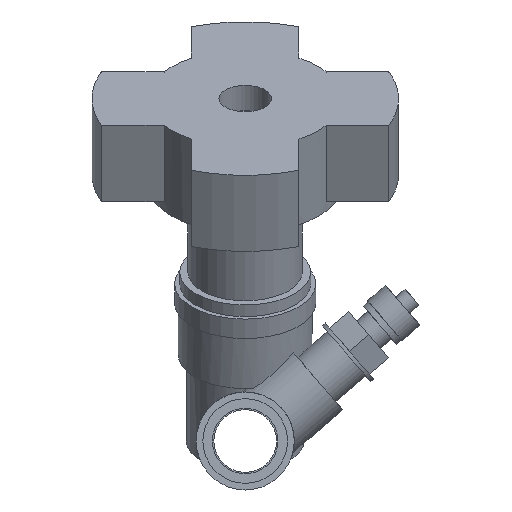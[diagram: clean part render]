
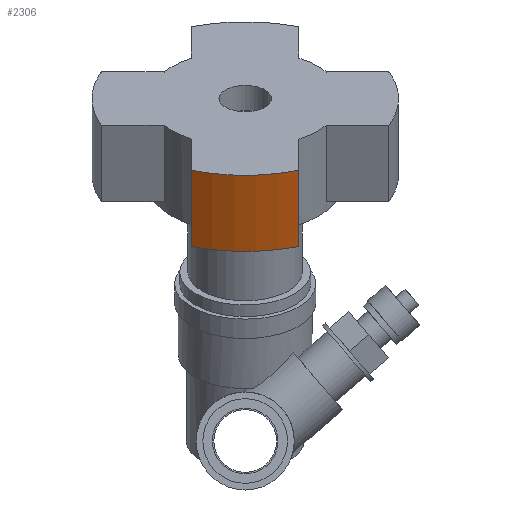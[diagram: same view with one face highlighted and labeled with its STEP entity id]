
A CAD part, left-side view. The second image highlights one B-rep face of the part: STEP entity #2306.
In plain terms, the highlighted cylindrical face has radius 1.37 mm (diameter 2.74 mm), a partial arc.
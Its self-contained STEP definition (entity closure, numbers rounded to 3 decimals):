
#1510 = PLANE('',#1511);
#1511 = AXIS2_PLACEMENT_3D('',#1512,#1513,#1514);
#1512 = CARTESIAN_POINT('',(0.323,0.,2.377));
#1513 = DIRECTION('',(-0.5,0.,0.866));
#1514 = DIRECTION('',(0.866,0.,0.5));
#1530 = VERTEX_POINT('',#1531);
#1531 = CARTESIAN_POINT('',(-0.789,-0.48,1.736));
#1545 = PLANE('',#1546);
#1546 = AXIS2_PLACEMENT_3D('',#1547,#1548,#1549);
#1547 = CARTESIAN_POINT('',(0.323,-0.48,2.377));
#1548 = DIRECTION('',(0.,-1.,0.));
#1549 = DIRECTION('',(0.866,0.,0.5));
#1557 = EDGE_CURVE('',#1530,#1558,#1560,.T.);
#1558 = VERTEX_POINT('',#1559);
#1559 = CARTESIAN_POINT('',(-0.789,0.48,1.736));
#1560 = SURFACE_CURVE('',#1561,(#1566,#1577),.PCURVE_S1.);
#1561 = CIRCLE('',#1562,1.37);
#1562 = AXIS2_PLACEMENT_3D('',#1563,#1564,#1565);
#1563 = CARTESIAN_POINT('',(0.323,0.,2.377));
#1564 = DIRECTION('',(0.5,0.,-0.866));
#1565 = DIRECTION('',(0.866,0.,0.5));
#1566 = PCURVE('',#1510,#1567);
#1567 = DEFINITIONAL_REPRESENTATION('',(#1568),#1576);
#1568 = ( BOUNDED_CURVE() B_SPLINE_CURVE(2,(#1569,#1570,#1571,#1572,
#1573,#1574,#1575),.UNSPECIFIED.,.T.,.F.) B_SPLINE_CURVE_WITH_KNOTS((1,2
    ,2,2,2,1),(-2.094,0.,2.094,4.189,
6.283,8.378),.UNSPECIFIED.) CURVE() 
GEOMETRIC_REPRESENTATION_ITEM() RATIONAL_B_SPLINE_CURVE((1.,0.5,1.,0.5,
1.,0.5,1.)) REPRESENTATION_ITEM('') );
#1569 = CARTESIAN_POINT('',(1.37,0.));
#1570 = CARTESIAN_POINT('',(1.37,-2.373));
#1571 = CARTESIAN_POINT('',(-0.685,-1.186));
#1572 = CARTESIAN_POINT('',(-2.74,0.));
#1573 = CARTESIAN_POINT('',(-0.685,1.186));
#1574 = CARTESIAN_POINT('',(1.37,2.373));
#1575 = CARTESIAN_POINT('',(1.37,0.));
#1576 = ( GEOMETRIC_REPRESENTATION_CONTEXT(2) 
PARAMETRIC_REPRESENTATION_CONTEXT() REPRESENTATION_CONTEXT('2D SPACE',''
  ) );
#1577 = PCURVE('',#1578,#1583);
#1578 = CYLINDRICAL_SURFACE('',#1579,1.37);
#1579 = AXIS2_PLACEMENT_3D('',#1580,#1581,#1582);
#1580 = CARTESIAN_POINT('',(0.323,0.,2.377));
#1581 = DIRECTION('',(-0.5,0.,0.866));
#1582 = DIRECTION('',(0.866,0.,0.5));
#1583 = DEFINITIONAL_REPRESENTATION('',(#1584),#1588);
#1584 = LINE('',#1585,#1586);
#1585 = CARTESIAN_POINT('',(6.283,0.));
#1586 = VECTOR('',#1587,1.);
#1587 = DIRECTION('',(-1.,0.));
#1588 = ( GEOMETRIC_REPRESENTATION_CONTEXT(2) 
PARAMETRIC_REPRESENTATION_CONTEXT() REPRESENTATION_CONTEXT('2D SPACE',''
  ) );
#1604 = PLANE('',#1605);
#1605 = AXIS2_PLACEMENT_3D('',#1606,#1607,#1608);
#1606 = CARTESIAN_POINT('',(0.323,0.48,2.377));
#1607 = DIRECTION('',(0.,1.,0.));
#1608 = DIRECTION('',(-0.866,0.,-0.5));
#1807 = PLANE('',#1808);
#1808 = AXIS2_PLACEMENT_3D('',#1809,#1810,#1811);
#1809 = CARTESIAN_POINT('',(-0.07,0.,3.057)
  );
#1810 = DIRECTION('',(-0.5,0.,0.866));
#1811 = DIRECTION('',(0.866,0.,0.5));
#2214 = EDGE_CURVE('',#1558,#2215,#2217,.T.);
#2215 = VERTEX_POINT('',#2216);
#2216 = CARTESIAN_POINT('',(-1.181,0.48,2.415));
#2217 = SURFACE_CURVE('',#2218,(#2222,#2229),.PCURVE_S1.);
#2218 = LINE('',#2219,#2220);
#2219 = CARTESIAN_POINT('',(-0.789,0.48,1.736));
#2220 = VECTOR('',#2221,1.);
#2221 = DIRECTION('',(-0.5,0.,0.866));
#2222 = PCURVE('',#1604,#2223);
#2223 = DEFINITIONAL_REPRESENTATION('',(#2224),#2228);
#2224 = LINE('',#2225,#2226);
#2225 = CARTESIAN_POINT('',(1.283,0.));
#2226 = VECTOR('',#2227,1.);
#2227 = DIRECTION('',(0.,1.));
#2228 = ( GEOMETRIC_REPRESENTATION_CONTEXT(2) 
PARAMETRIC_REPRESENTATION_CONTEXT() REPRESENTATION_CONTEXT('2D SPACE',''
  ) );
#2229 = PCURVE('',#1578,#2230);
#2230 = DEFINITIONAL_REPRESENTATION('',(#2231),#2235);
#2231 = LINE('',#2232,#2233);
#2232 = CARTESIAN_POINT('',(2.784,0.));
#2233 = VECTOR('',#2234,1.);
#2234 = DIRECTION('',(0.,1.));
#2235 = ( GEOMETRIC_REPRESENTATION_CONTEXT(2) 
PARAMETRIC_REPRESENTATION_CONTEXT() REPRESENTATION_CONTEXT('2D SPACE',''
  ) );
#2263 = VERTEX_POINT('',#2264);
#2264 = CARTESIAN_POINT('',(-1.181,-0.48,2.415));
#2285 = EDGE_CURVE('',#1530,#2263,#2286,.T.);
#2286 = SURFACE_CURVE('',#2287,(#2291,#2298),.PCURVE_S1.);
#2287 = LINE('',#2288,#2289);
#2288 = CARTESIAN_POINT('',(-0.789,-0.48,1.736));
#2289 = VECTOR('',#2290,1.);
#2290 = DIRECTION('',(-0.5,0.,0.866));
#2291 = PCURVE('',#1545,#2292);
#2292 = DEFINITIONAL_REPRESENTATION('',(#2293),#2297);
#2293 = LINE('',#2294,#2295);
#2294 = CARTESIAN_POINT('',(-1.283,0.));
#2295 = VECTOR('',#2296,1.);
#2296 = DIRECTION('',(0.,1.));
#2297 = ( GEOMETRIC_REPRESENTATION_CONTEXT(2) 
PARAMETRIC_REPRESENTATION_CONTEXT() REPRESENTATION_CONTEXT('2D SPACE',''
  ) );
#2298 = PCURVE('',#1578,#2299);
#2299 = DEFINITIONAL_REPRESENTATION('',(#2300),#2304);
#2300 = LINE('',#2301,#2302);
#2301 = CARTESIAN_POINT('',(3.5,0.));
#2302 = VECTOR('',#2303,1.);
#2303 = DIRECTION('',(0.,1.));
#2304 = ( GEOMETRIC_REPRESENTATION_CONTEXT(2) 
PARAMETRIC_REPRESENTATION_CONTEXT() REPRESENTATION_CONTEXT('2D SPACE',''
  ) );
#2306 = ADVANCED_FACE('',(#2307),#1578,.T.);
#2307 = FACE_BOUND('',#2308,.T.);
#2308 = EDGE_LOOP('',(#2309,#2335,#2336,#2337));
#2309 = ORIENTED_EDGE('',*,*,#2310,.T.);
#2310 = EDGE_CURVE('',#2263,#2215,#2311,.T.);
#2311 = SURFACE_CURVE('',#2312,(#2317,#2324),.PCURVE_S1.);
#2312 = CIRCLE('',#2313,1.37);
#2313 = AXIS2_PLACEMENT_3D('',#2314,#2315,#2316);
#2314 = CARTESIAN_POINT('',(-0.07,0.,3.057)
  );
#2315 = DIRECTION('',(0.5,0.,-0.866));
#2316 = DIRECTION('',(0.866,0.,0.5));
#2317 = PCURVE('',#1578,#2318);
#2318 = DEFINITIONAL_REPRESENTATION('',(#2319),#2323);
#2319 = LINE('',#2320,#2321);
#2320 = CARTESIAN_POINT('',(6.283,0.785));
#2321 = VECTOR('',#2322,1.);
#2322 = DIRECTION('',(-1.,0.));
#2323 = ( GEOMETRIC_REPRESENTATION_CONTEXT(2) 
PARAMETRIC_REPRESENTATION_CONTEXT() REPRESENTATION_CONTEXT('2D SPACE',''
  ) );
#2324 = PCURVE('',#1807,#2325);
#2325 = DEFINITIONAL_REPRESENTATION('',(#2326),#2334);
#2326 = ( BOUNDED_CURVE() B_SPLINE_CURVE(2,(#2327,#2328,#2329,#2330,
#2331,#2332,#2333),.UNSPECIFIED.,.T.,.F.) B_SPLINE_CURVE_WITH_KNOTS((1,2
    ,2,2,2,1),(-2.094,0.,2.094,4.189,
6.283,8.378),.UNSPECIFIED.) CURVE() 
GEOMETRIC_REPRESENTATION_ITEM() RATIONAL_B_SPLINE_CURVE((1.,0.5,1.,0.5,
1.,0.5,1.)) REPRESENTATION_ITEM('') );
#2327 = CARTESIAN_POINT('',(1.37,0.));
#2328 = CARTESIAN_POINT('',(1.37,-2.373));
#2329 = CARTESIAN_POINT('',(-0.685,-1.186));
#2330 = CARTESIAN_POINT('',(-2.74,0.));
#2331 = CARTESIAN_POINT('',(-0.685,1.186));
#2332 = CARTESIAN_POINT('',(1.37,2.373));
#2333 = CARTESIAN_POINT('',(1.37,0.));
#2334 = ( GEOMETRIC_REPRESENTATION_CONTEXT(2) 
PARAMETRIC_REPRESENTATION_CONTEXT() REPRESENTATION_CONTEXT('2D SPACE',''
  ) );
#2335 = ORIENTED_EDGE('',*,*,#2214,.F.);
#2336 = ORIENTED_EDGE('',*,*,#1557,.F.);
#2337 = ORIENTED_EDGE('',*,*,#2285,.T.);
